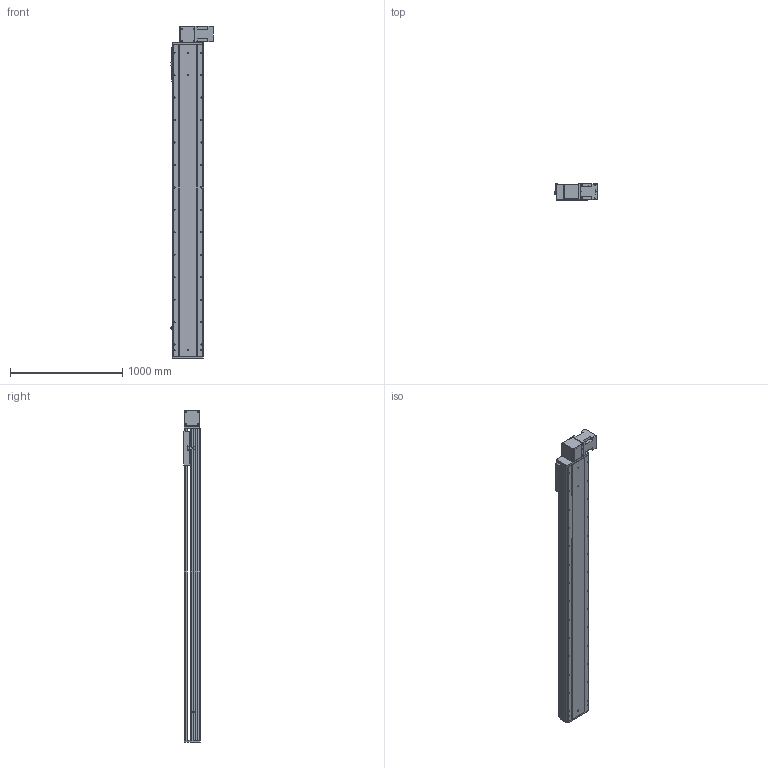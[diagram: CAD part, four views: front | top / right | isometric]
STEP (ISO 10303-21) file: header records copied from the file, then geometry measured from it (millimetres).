
FILE_DESCRIPTION (( 'STEP AP214' ), '1' );
FILE_NAME ('RTB28S-XX-2350-BL-M100-XX-C4.STEP', '2025-12-22T02:31:01', ( '' ), ( '' ), 'SwSTEP 2.0', 'SolidWorks 2018', '' );
FILE_SCHEMA (( 'AUTOMOTIVE_DESIGN' ));
Length unit declared in the file: millimetre
Products named in the file (4): RTB28S-GY-008^RTB28S-XX-XX-BL-M100-XX-C4; RTB28S-GY-004^RTB28S-XX-XX-BL-M100-XX-C4; RTB28S-GY-011^RTB28S-XX-XX-BL-M100-XX-C4; RTB28S-XX-2350-BL-M100-XX-C4
Assembly tree (3 placements, depth 2):
  RTB28S-XX-2350-BL-M100-XX-C4
    RTB28S-GY-011^RTB28S-XX-XX-BL-M100-XX-C4
    RTB28S-GY-004^RTB28S-XX-XX-BL-M100-XX-C4
    RTB28S-GY-008^RTB28S-XX-XX-BL-M100-XX-C4
Bounding box: 380.7 x 145 x 2957 mm (x, y, z)
Volume: 50867453.8 mm3; surface area: 4781402.8 mm2
Topology: 3 solids, 4 shells, 858 faces, 2298 edges, 1468 vertices
Faces by surface type: cylinder 415, plane 359, cone 80, torus 4
Entity records: 32915 total; most frequent: CARTESIAN_POINT 6052, DIRECTION 4884, ORIENTED_EDGE 4532, EDGE_CURVE 2266, AXIS2_PLACEMENT_3D 1792, VERTEX_POINT 1468, VECTOR 1300, LINE 1300
